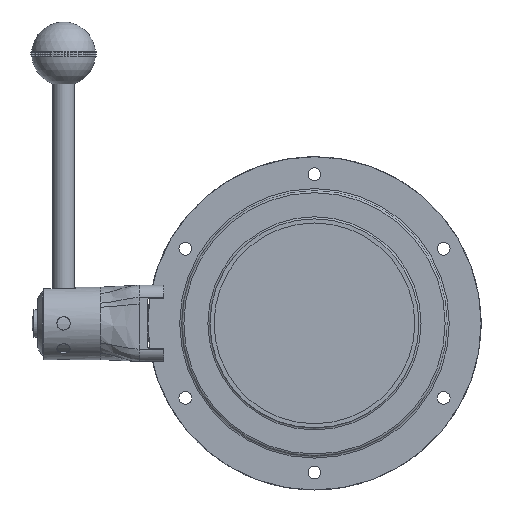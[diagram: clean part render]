
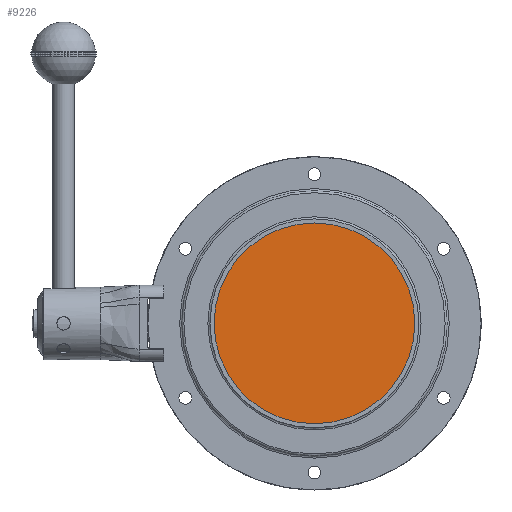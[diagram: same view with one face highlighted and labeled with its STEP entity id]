
A CAD part, left-side view. The second image highlights one B-rep face of the part: STEP entity #9226.
In plain terms, the highlighted planar face has unit normal (-1, 0, 0) as drawn and (1, 0, 0) by its records, which use the part's own axes.
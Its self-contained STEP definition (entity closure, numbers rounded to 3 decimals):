
#1017=PLANE('',#10351);
#1562=CIRCLE('',#10352,48.8);
#2100=FACE_OUTER_BOUND('',#2729,.T.);
#2729=EDGE_LOOP('',(#8584));
#4786=VERTEX_POINT('',#22198);
#6058=EDGE_CURVE('',#4786,#4786,#1562,.T.);
#8584=ORIENTED_EDGE('',*,*,#6058,.T.);
#9226=ADVANCED_FACE('',(#2100),#1017,.T.);
#10351=AXIS2_PLACEMENT_3D('',#22197,#12913,#12914);
#10352=AXIS2_PLACEMENT_3D('',#22199,#12915,#12916);
#12913=DIRECTION('center_axis',(1.,0.,0.));
#12914=DIRECTION('ref_axis',(0.,0.,-1.));
#12915=DIRECTION('center_axis',(1.,0.,0.));
#12916=DIRECTION('ref_axis',(0.,0.,-1.));
#22197=CARTESIAN_POINT('Origin',(19.507,0.,0.));
#22198=CARTESIAN_POINT('',(19.507,-48.8,0.));
#22199=CARTESIAN_POINT('Origin',(19.507,0.,0.));
